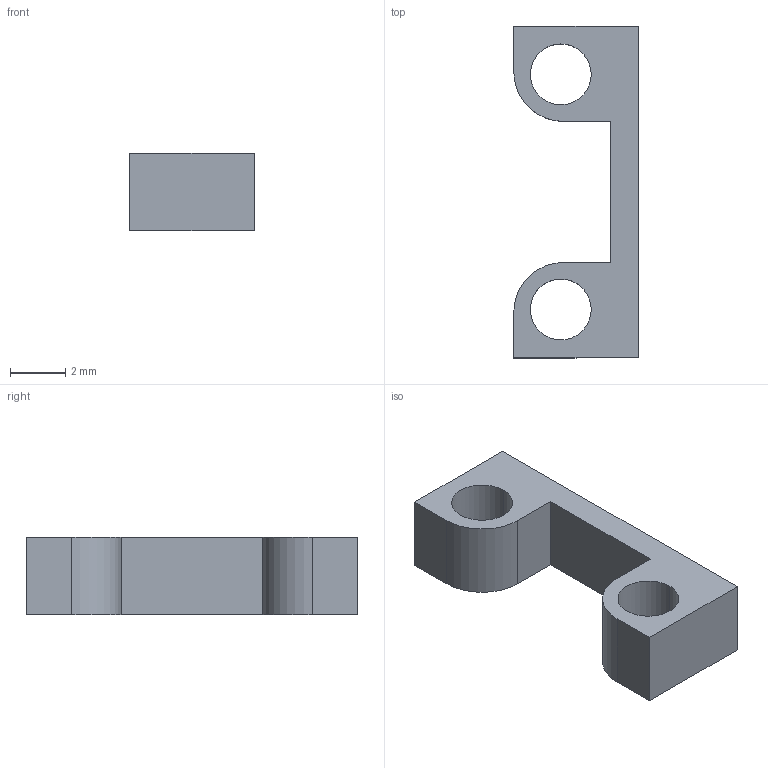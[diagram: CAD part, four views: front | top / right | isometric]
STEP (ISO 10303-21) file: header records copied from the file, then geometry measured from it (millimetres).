
FILE_DESCRIPTION (( 'STEP AP203' ), '1' );
FILE_NAME ('ms-exz-4.STEP', '2015-04-21T04:06:39', ( '' ), ( '' ), 'SwSTEP 2.0', 'SolidWorks 2010', '' );
FILE_SCHEMA (( 'CONFIG_CONTROL_DESIGN' ));
Length unit declared in the file: millimetre
Products named in the file (1): ms-exz-4
Bounding box: 4.5 x 12 x 2.8 mm (x, y, z)
Volume: 76 mm3; surface area: 200.7 mm2
Topology: 1 solids, 1 shells, 16 faces, 42 edges, 28 vertices
Faces by surface type: plane 10, cylinder 6
Entity records: 583 total; most frequent: DIRECTION 88, CARTESIAN_POINT 87, ORIENTED_EDGE 84, EDGE_CURVE 42, LINE 30, VECTOR 30, AXIS2_PLACEMENT_3D 29, VERTEX_POINT 28
